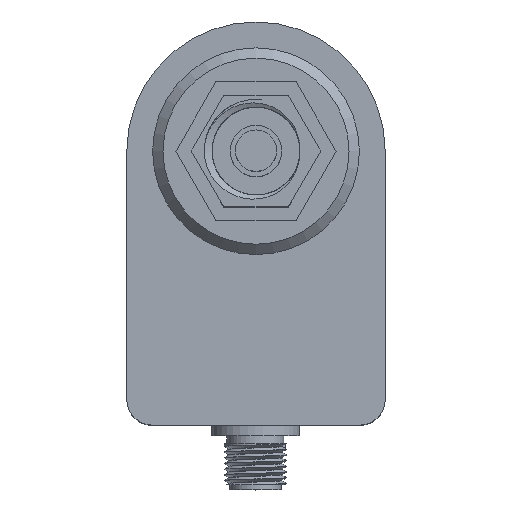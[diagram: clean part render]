
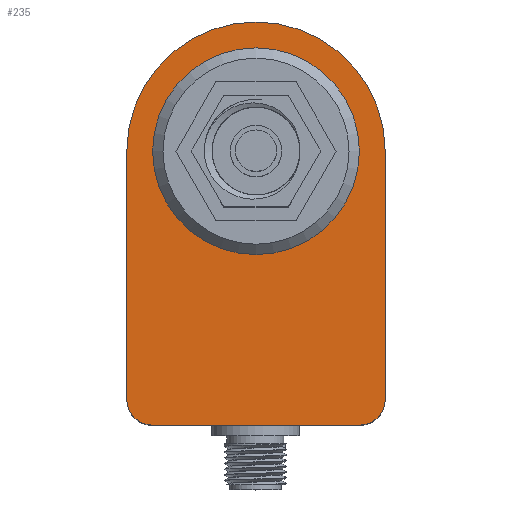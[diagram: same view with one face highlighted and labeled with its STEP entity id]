
A CAD part, top view. The second image highlights one B-rep face of the part: STEP entity #235.
In plain terms, the highlighted planar face has unit normal (0, 0, 1).
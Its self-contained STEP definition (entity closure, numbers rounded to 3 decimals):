
#173=FACE_BOUND('',#672,.T.);
#174=FACE_BOUND('',#673,.T.);
#235=ADVANCED_FACE('',(#173,#174),#400,.T.);
#400=PLANE('',#2838);
#672=EDGE_LOOP('',(#1474));
#673=EDGE_LOOP('',(#1475,#1476,#1477,#1478,#1479,#1480));
#1066=LINE('',#4076,#1205);
#1070=LINE('',#4090,#1209);
#1073=LINE('',#4099,#1212);
#1205=VECTOR('',#3059,1.);
#1209=VECTOR('',#3073,1.);
#1212=VECTOR('',#3084,1.);
#1474=ORIENTED_EDGE('',*,*,#2488,.F.);
#1475=ORIENTED_EDGE('',*,*,#2472,.T.);
#1476=ORIENTED_EDGE('',*,*,#2475,.T.);
#1477=ORIENTED_EDGE('',*,*,#2478,.T.);
#1478=ORIENTED_EDGE('',*,*,#2482,.T.);
#1479=ORIENTED_EDGE('',*,*,#2485,.T.);
#1480=ORIENTED_EDGE('',*,*,#2487,.T.);
#2207=VERTEX_POINT('',#4064);
#2210=VERTEX_POINT('',#4069);
#2212=VERTEX_POINT('',#4075);
#2214=VERTEX_POINT('',#4081);
#2217=VERTEX_POINT('',#4089);
#2219=VERTEX_POINT('',#4095);
#2220=VERTEX_POINT('',#4102);
#2472=EDGE_CURVE('',#2207,#2210,#2763,.T.);
#2475=EDGE_CURVE('',#2210,#2212,#1066,.T.);
#2478=EDGE_CURVE('',#2212,#2214,#2765,.T.);
#2482=EDGE_CURVE('',#2214,#2217,#1070,.T.);
#2485=EDGE_CURVE('',#2217,#2219,#2768,.T.);
#2487=EDGE_CURVE('',#2219,#2207,#1073,.T.);
#2488=EDGE_CURVE('',#2220,#2220,#2769,.T.);
#2763=CIRCLE('',#2825,25.);
#2765=CIRCLE('',#2829,5.);
#2768=CIRCLE('',#2834,5.);
#2769=CIRCLE('',#2837,20.);
#2825=AXIS2_PLACEMENT_3D('',#4070,#3053,#3054);
#2829=AXIS2_PLACEMENT_3D('',#4082,#3065,#3066);
#2834=AXIS2_PLACEMENT_3D('',#4096,#3079,#3080);
#2837=AXIS2_PLACEMENT_3D('',#4101,#3087,#3088);
#2838=AXIS2_PLACEMENT_3D('',#4103,#3089,#3090);
#3053=DIRECTION('',(0.,0.,1.));
#3054=DIRECTION('',(1.,0.,0.));
#3059=DIRECTION('',(0.,-1.,0.));
#3065=DIRECTION('',(0.,0.,1.));
#3066=DIRECTION('',(1.,0.,0.));
#3073=DIRECTION('',(1.,0.,0.));
#3079=DIRECTION('',(0.,0.,1.));
#3080=DIRECTION('',(1.,0.,0.));
#3084=DIRECTION('',(0.,1.,0.));
#3087=DIRECTION('',(0.,0.,1.));
#3088=DIRECTION('',(0.,1.,0.));
#3089=DIRECTION('',(0.,0.,1.));
#3090=DIRECTION('',(1.,0.,0.));
#4064=CARTESIAN_POINT('',(25.,53.,44.));
#4069=CARTESIAN_POINT('',(-25.,53.,44.));
#4070=CARTESIAN_POINT('',(0.,53.,44.));
#4075=CARTESIAN_POINT('',(-25.,5.,44.));
#4076=CARTESIAN_POINT('',(-25.,53.,44.));
#4081=CARTESIAN_POINT('',(-20.,0.,44.));
#4082=CARTESIAN_POINT('',(-20.,5.,44.));
#4089=CARTESIAN_POINT('',(20.,0.,44.));
#4090=CARTESIAN_POINT('',(-20.,0.,44.));
#4095=CARTESIAN_POINT('',(25.,5.,44.));
#4096=CARTESIAN_POINT('',(20.,5.,44.));
#4099=CARTESIAN_POINT('',(25.,5.,44.));
#4101=CARTESIAN_POINT('',(0.,53.,44.));
#4102=CARTESIAN_POINT('',(0.,73.,44.));
#4103=CARTESIAN_POINT('',(0.,53.,44.));
